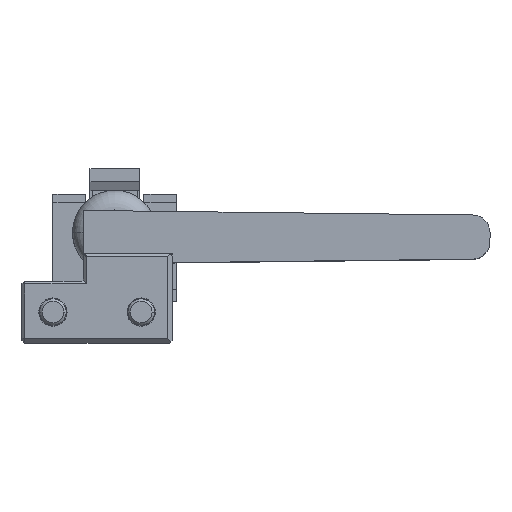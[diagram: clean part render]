
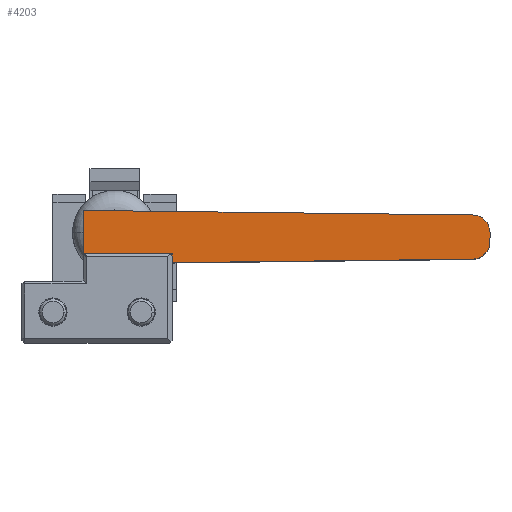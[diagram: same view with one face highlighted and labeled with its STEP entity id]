
A CAD part, top view. The second image highlights one B-rep face of the part: STEP entity #4203.
In plain terms, the highlighted planar face has unit normal (0, 0, 1).
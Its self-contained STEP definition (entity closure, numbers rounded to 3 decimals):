
#210 = LINE ( 'NONE', #212, #4125 ) ;
#212 = CARTESIAN_POINT ( 'NONE',  ( 17., 9.1, 11.75 ) ) ;
#213 = DIRECTION ( 'NONE',  ( -1., -0.012, 0. ) ) ;
#222 = CARTESIAN_POINT ( 'NONE',  ( 51., 11.5, 11.75 ) ) ;
#223 = DIRECTION ( 'NONE',  ( 0., 0., -1. ) ) ;
#224 = DIRECTION ( 'NONE',  ( 1., 0., 0. ) ) ;
#231 = LINE ( 'NONE', #232, #4116 ) ;
#232 = CARTESIAN_POINT ( 'NONE',  ( 53., 12.5, 11.75 ) ) ;
#233 = DIRECTION ( 'NONE',  ( 0., -1., 0. ) ) ;
#238 = CARTESIAN_POINT ( 'NONE',  ( 51., 12.5, 11.75 ) ) ;
#239 = DIRECTION ( 'NONE',  ( 0., 0., -1. ) ) ;
#240 = DIRECTION ( 'NONE',  ( 1., 0., 0. ) ) ;
#1237 = CARTESIAN_POINT ( 'NONE',  ( 51., 14.5, 11.75 ) ) ;
#1338 = DIRECTION ( 'NONE',  ( 1., 0., 0. ) ) ;
#1340 = DIRECTION ( 'NONE',  ( 0., 0., 1. ) ) ;
#1342 = FACE_OUTER_BOUND ( 'NONE', #4050, .T. ) ;
#1346 = CARTESIAN_POINT ( 'NONE',  ( 51., 12.5, 11.75 ) ) ;
#1348 = PLANE ( 'NONE',  #5462 ) ;
#1397 = DIRECTION ( 'NONE',  ( 0., 1., 0. ) ) ;
#1398 = CARTESIAN_POINT ( 'NONE',  ( 17., 9.1, 11.75 ) ) ;
#1400 = LINE ( 'NONE', #1398, #5474 ) ;
#1408 = DIRECTION ( 'NONE',  ( -1., 0., 0. ) ) ;
#1411 = CARTESIAN_POINT ( 'NONE',  ( 17., 10.1, 11.75 ) ) ;
#1413 = LINE ( 'NONE', #1411, #5477 ) ;
#1448 = DIRECTION ( 'NONE',  ( 0., 1., 0. ) ) ;
#1449 = CARTESIAN_POINT ( 'NONE',  ( 7., 10.1, 11.75 ) ) ;
#1452 = LINE ( 'NONE', #1449, #5488 ) ;
#1466 = CARTESIAN_POINT ( 'NONE',  ( 7., 10.1, 11.75 ) ) ;
#1468 = CARTESIAN_POINT ( 'NONE',  ( 17., 10.1, 11.75 ) ) ;
#1471 = CARTESIAN_POINT ( 'NONE',  ( 53., 11.5, 11.75 ) ) ;
#1472 = CARTESIAN_POINT ( 'NONE',  ( 17., 9.1, 11.75 ) ) ;
#1715 = CARTESIAN_POINT ( 'NONE',  ( 51.024, 9.5, 11.75 ) ) ;
#1730 = CARTESIAN_POINT ( 'NONE',  ( 7., 15.018, 11.75 ) ) ;
#1784 = CARTESIAN_POINT ( 'NONE',  ( 53., 12.5, 11.75 ) ) ;
#2052 = VERTEX_POINT ( 'NONE', #1237 ) ;
#2074 = VERTEX_POINT ( 'NONE', #1784 ) ;
#2116 = VERTEX_POINT ( 'NONE', #1730 ) ;
#2129 = VERTEX_POINT ( 'NONE', #1715 ) ;
#2172 = ORIENTED_EDGE ( 'NONE', *, *, #4409, .F. ) ;
#2173 = ORIENTED_EDGE ( 'NONE', *, *, #4182, .F. ) ;
#2174 = ORIENTED_EDGE ( 'NONE', *, *, #4190, .F. ) ;
#2175 = ORIENTED_EDGE ( 'NONE', *, *, #4193, .F. ) ;
#2176 = ORIENTED_EDGE ( 'NONE', *, *, #4702, .F. ) ;
#2177 = ORIENTED_EDGE ( 'NONE', *, *, #4705, .F. ) ;
#2178 = ORIENTED_EDGE ( 'NONE', *, *, #4709, .F. ) ;
#2179 = ORIENTED_EDGE ( 'NONE', *, *, #4711, .F. ) ;
#2821 = LINE ( 'NONE', #2828, #5376 ) ;
#2828 = CARTESIAN_POINT ( 'NONE',  ( 7., 15.018, 11.75 ) ) ;
#2830 = DIRECTION ( 'NONE',  ( 1., -0.012, 0. ) ) ;
#3583 = VERTEX_POINT ( 'NONE', #1472 ) ;
#3584 = VERTEX_POINT ( 'NONE', #1471 ) ;
#3585 = VERTEX_POINT ( 'NONE', #1468 ) ;
#3587 = VERTEX_POINT ( 'NONE', #1466 ) ;
#4050 = EDGE_LOOP ( 'NONE', ( #2172, #2173, #2174, #2175, #2176, #2177, #2178, #2179 ) ) ;
#4111 = AXIS2_PLACEMENT_3D ( 'NONE', #238, #239, #240 ) ;
#4114 = CIRCLE ( 'NONE', #4111, 2. ) ;
#4116 = VECTOR ( 'NONE', #233, 1000. ) ;
#4119 = AXIS2_PLACEMENT_3D ( 'NONE', #222, #223, #224 ) ;
#4121 = CIRCLE ( 'NONE', #4119, 2. ) ;
#4125 = VECTOR ( 'NONE', #213, 1000. ) ;
#4182 = EDGE_CURVE ( 'NONE', #3587, #2116, #1452, .T. ) ;
#4190 = EDGE_CURVE ( 'NONE', #3585, #3587, #1413, .T. ) ;
#4193 = EDGE_CURVE ( 'NONE', #3583, #3585, #1400, .T. ) ;
#4203 = ADVANCED_FACE ( 'NONE', ( #1342 ), #1348, .T. ) ;
#4409 = EDGE_CURVE ( 'NONE', #2116, #2052, #2821, .T. ) ;
#4702 = EDGE_CURVE ( 'NONE', #2129, #3583, #210, .T. ) ;
#4705 = EDGE_CURVE ( 'NONE', #3584, #2129, #4121, .T. ) ;
#4709 = EDGE_CURVE ( 'NONE', #2074, #3584, #231, .T. ) ;
#4711 = EDGE_CURVE ( 'NONE', #2052, #2074, #4114, .T. ) ;
#5376 = VECTOR ( 'NONE', #2830, 1000. ) ;
#5462 = AXIS2_PLACEMENT_3D ( 'NONE', #1346, #1340, #1338 ) ;
#5474 = VECTOR ( 'NONE', #1397, 1000. ) ;
#5477 = VECTOR ( 'NONE', #1408, 1000. ) ;
#5488 = VECTOR ( 'NONE', #1448, 1000. ) ;
